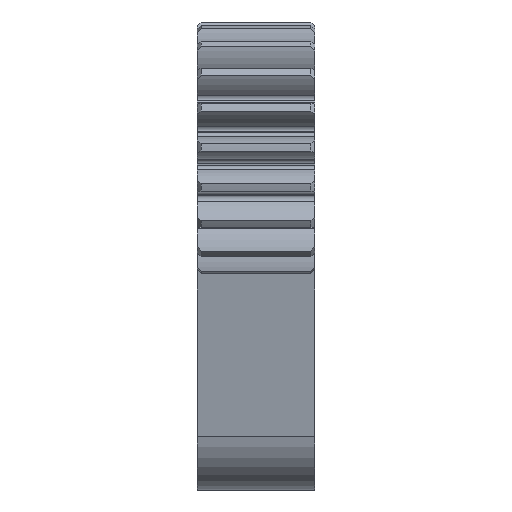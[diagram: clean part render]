
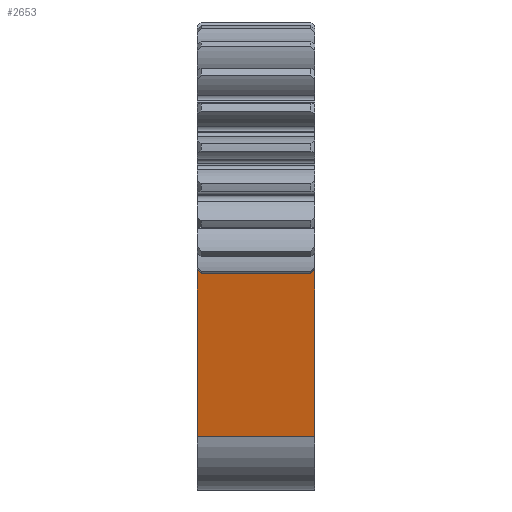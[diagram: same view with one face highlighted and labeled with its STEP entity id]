
A CAD part, left-side view. The second image highlights one B-rep face of the part: STEP entity #2653.
In plain terms, the highlighted planar face has unit normal (-0.985, 0, -0.174).
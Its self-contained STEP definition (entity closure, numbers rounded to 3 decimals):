
#85=(
BOUNDED_CURVE()
B_SPLINE_CURVE(2,(#3861,#3862,#3863),.UNSPECIFIED.,.F.,.F.)
B_SPLINE_CURVE_WITH_KNOTS((3,3),(0.,0.051),.UNSPECIFIED.)
CURVE()
GEOMETRIC_REPRESENTATION_ITEM()
RATIONAL_B_SPLINE_CURVE((1.,1.,1.))
REPRESENTATION_ITEM('')
);
#86=(
BOUNDED_CURVE()
B_SPLINE_CURVE(2,(#4521,#4522,#4523),.UNSPECIFIED.,.F.,.F.)
B_SPLINE_CURVE_WITH_KNOTS((3,3),(0.,0.052),
 .UNSPECIFIED.)
CURVE()
GEOMETRIC_REPRESENTATION_ITEM()
RATIONAL_B_SPLINE_CURVE((1.,1.,1.))
REPRESENTATION_ITEM('')
);
#541=FACE_OUTER_BOUND('',#681,.T.);
#681=EDGE_LOOP('',(#2271,#2272,#2273,#2274,#2275,#2276));
#752=LINE('',#4517,#896);
#828=LINE('',#4857,#972);
#829=LINE('',#4859,#973);
#830=LINE('',#4860,#974);
#896=VECTOR('',#3398,10.);
#972=VECTOR('',#3820,10.);
#973=VECTOR('',#3821,10.);
#974=VECTOR('',#3822,10.);
#983=VERTEX_POINT('',#3859);
#984=VERTEX_POINT('',#3860);
#1161=VERTEX_POINT('',#4516);
#1162=VERTEX_POINT('',#4520);
#1249=VERTEX_POINT('',#4856);
#1250=VERTEX_POINT('',#4858);
#1261=EDGE_CURVE('',#983,#984,#85,.T.);
#1477=EDGE_CURVE('',#984,#1161,#752,.T.);
#1479=EDGE_CURVE('',#1161,#1162,#86,.T.);
#1658=EDGE_CURVE('',#1162,#1249,#828,.T.);
#1659=EDGE_CURVE('',#1249,#1250,#829,.T.);
#1660=EDGE_CURVE('',#1250,#983,#830,.T.);
#2271=ORIENTED_EDGE('',*,*,#1261,.T.);
#2272=ORIENTED_EDGE('',*,*,#1477,.T.);
#2273=ORIENTED_EDGE('',*,*,#1479,.T.);
#2274=ORIENTED_EDGE('',*,*,#1658,.T.);
#2275=ORIENTED_EDGE('',*,*,#1659,.T.);
#2276=ORIENTED_EDGE('',*,*,#1660,.T.);
#2515=PLANE('',#3005);
#2653=ADVANCED_FACE('',(#541),#2515,.F.);
#3005=AXIS2_PLACEMENT_3D('',#4855,#3818,#3819);
#3398=DIRECTION('',(0.,1.,0.));
#3818=DIRECTION('center_axis',(0.985,0.,0.174));
#3819=DIRECTION('ref_axis',(-0.174,0.,0.985));
#3820=DIRECTION('',(0.174,0.,-0.985));
#3821=DIRECTION('',(0.,-1.,0.));
#3822=DIRECTION('',(-0.174,0.,0.985));
#3859=CARTESIAN_POINT('',(-13.915,-355.5,64.328));
#3860=CARTESIAN_POINT('',(-13.847,-355.164,63.944));
#3861=CARTESIAN_POINT('Ctrl Pts',(-13.915,-355.5,64.328));
#3862=CARTESIAN_POINT('Ctrl Pts',(-13.881,-355.336,64.139));
#3863=CARTESIAN_POINT('Ctrl Pts',(-13.847,-355.164,63.944));
#4516=CARTESIAN_POINT('',(-13.847,-345.835,63.944));
#4517=CARTESIAN_POINT('',(-13.847,-345.5,63.944));
#4520=CARTESIAN_POINT('',(-13.915,-345.5,64.328));
#4521=CARTESIAN_POINT('Ctrl Pts',(-13.847,-345.835,63.944));
#4522=CARTESIAN_POINT('Ctrl Pts',(-13.881,-345.664,64.139));
#4523=CARTESIAN_POINT('Ctrl Pts',(-13.915,-345.5,64.328));
#4855=CARTESIAN_POINT('Origin',(-11.409,-350.5,50.115));
#4856=CARTESIAN_POINT('',(-11.409,-345.5,50.115));
#4857=CARTESIAN_POINT('',(-15.501,-345.5,73.326));
#4858=CARTESIAN_POINT('',(-11.409,-355.5,50.115));
#4859=CARTESIAN_POINT('',(-11.409,-350.5,50.115));
#4860=CARTESIAN_POINT('',(-15.501,-355.5,73.326));
